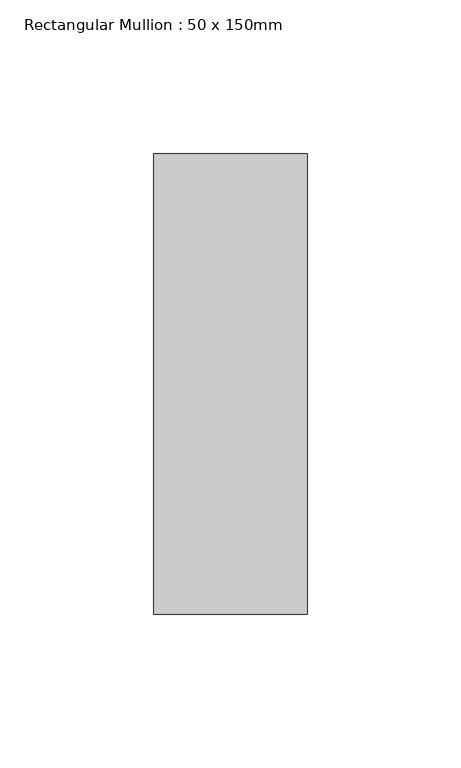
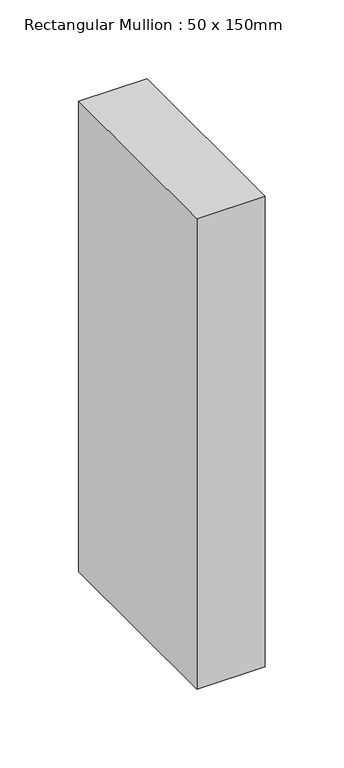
"""IFC4 building model written with IfcOpenShell, lengths in millimetres: member geometry, Rectangular Mullion : 50 x 150mm."""

import ifcopenshell
import ifcopenshell.guid

model = None  # the IFC model being written
_history = None  # IfcOwnerHistory: only IFC2X3 demands one
_inside = {}  # id of a spatial element -> (the spatial element, [elements in it])
_under = {}  # id of a project, library or spatial element -> (it, [spatial elements below it])
_declared = {}  # id of a project -> (the project, [libraries it declares])
_typed = {}  # id of a type object -> (the type object, [elements of that type])
_made_of = {}  # id of a material, layer set ... -> (it, [elements and type objects made of it])


def new_model(schema):
    """Start an empty IFC model of exactly this schema.

    Asked for "IFC4X3", IfcOpenShell would pick the latest addendum, in which some entities
    have other attributes; the version numbers below select the first issue.
    IFC2X3 requires an IfcOwnerHistory on every rooted entity: one is made here for all.
    """
    global model, _history
    if schema == "IFC4X3":
        model = ifcopenshell.file(schema_version=(4, 3, 0, 0))
    else:
        model = ifcopenshell.file(schema=schema)
    _inside.clear()
    _under.clear()
    _declared.clear()
    _typed.clear()
    _made_of.clear()
    _history = None
    if model.schema == "IFC2X3":
        org = make("IfcOrganization", Name="unknown")
        user = make(
            "IfcPersonAndOrganization",
            ThePerson=make("IfcPerson", FamilyName="unknown"),
            TheOrganization=org,
        )
        app = make(
            "IfcApplication",
            ApplicationDeveloper=org,
            Version="unknown",
            ApplicationFullName="unknown",
            ApplicationIdentifier="unknown",
        )
        _history = make(
            "IfcOwnerHistory",
            OwningUser=user,
            OwningApplication=app,
            ChangeAction="ADDED",
            CreationDate=0,
        )
    return model


def make(cls, **values):
    """One entity of the class cls with the attributes given. An attribute that is None is left unset."""
    return model.create_entity(
        cls, **{name: value for name, value in values.items() if value is not None}
    )


def rooted(cls, **values):
    """An entity with a GlobalId (a new one), such as an element, a storey or a relation."""
    return make(cls, GlobalId=ifcopenshell.guid.new(), OwnerHistory=_history, **values)


def si_unit(unit_type, name, prefix=None):
    """IfcSIUnit, for example si_unit("LENGTHUNIT", "METRE", prefix="MILLI")."""
    return make("IfcSIUnit", UnitType=unit_type, Prefix=prefix, Name=name)


def assignment(units):
    """IfcUnitAssignment: the units of a project."""
    return None if units is None else make("IfcUnitAssignment", Units=units)


def point(xyz):
    """IfcCartesianPoint."""
    return None if xyz is None else make("IfcCartesianPoint", Coordinates=xyz)


def direction(xyz):
    """IfcDirection."""
    return None if xyz is None else make("IfcDirection", DirectionRatios=xyz)


def frame(location, z_axis=None, x_axis=None):
    """IfcAxis2Placement3D, a coordinate frame: its origin and axes. An axis left out is left unset."""
    return make(
        "IfcAxis2Placement3D",
        Location=point(location),
        Axis=direction(z_axis),
        RefDirection=direction(x_axis),
    )


def origin():
    """The frame at (0, 0, 0) with its axes left unset."""
    return frame((0.0, 0.0, 0.0))


def place(relative_to, where):
    """IfcLocalPlacement: puts the frame where relative to a parent placement (None: the world)."""
    return make(
        "IfcLocalPlacement", PlacementRelTo=relative_to, RelativePlacement=where
    )


def context(
    kind, dimensions, precision=None, world=None, true_north=None, identifier=None
):
    """IfcGeometricRepresentationContext, for example the 3D "Model" context."""
    return make(
        "IfcGeometricRepresentationContext",
        ContextIdentifier=identifier,
        ContextType=kind,
        CoordinateSpaceDimension=dimensions,
        Precision=precision,
        WorldCoordinateSystem=world,
        TrueNorth=true_north,
    )


def project(units=None, contexts=None):
    """IfcProject with its units and contexts."""
    return rooted(
        "IfcProject",
        Name="project",
        RepresentationContexts=contexts,
        UnitsInContext=assignment(units),
    )


def spatial(cls, under=None, at=None, **own):
    """A site, building, storey or space (cls), placed at a placement, below another one or the project."""
    s = rooted(cls, ObjectPlacement=at, **own)
    if under is not None:
        _under.setdefault(under.id(), (under, []))[1].append(s)
    return s


def polyline(points):
    """IfcPolyline through the points."""
    return make("IfcPolyline", Points=[point(p) for p in points])


def outline(outer, holes=None, kind="AREA"):
    """IfcArbitraryClosedProfileDef: a profile drawn as a closed curve; with holes, ...WithVoids."""
    if holes is None:
        return make("IfcArbitraryClosedProfileDef", ProfileType=kind, OuterCurve=outer)
    return make(
        "IfcArbitraryProfileDefWithVoids",
        ProfileType=kind,
        OuterCurve=outer,
        InnerCurves=holes,
    )


def extrude(swept, where, along, depth):
    """IfcExtrudedAreaSolid: the profile swept, set in the frame where, extruded along a direction by depth."""
    return make(
        "IfcExtrudedAreaSolid",
        SweptArea=swept,
        Position=where,
        ExtrudedDirection=direction(along),
        Depth=depth,
    )


def shape(context_of_items, identifier, shape_type, items):
    """IfcShapeRepresentation: the items that make up one representation, for example the "Body"."""
    return make(
        "IfcShapeRepresentation",
        ContextOfItems=context_of_items,
        RepresentationIdentifier=identifier,
        RepresentationType=shape_type,
        Items=items,
    )


def source(mapping_origin, context_of_items, identifier, shape_type, items):
    """IfcRepresentationMap: a shape defined once, which mapped items show again and again."""
    return make(
        "IfcRepresentationMap",
        MappingOrigin=mapping_origin,
        MappedRepresentation=shape(context_of_items, identifier, shape_type, items),
    )


def transform(
    local_origin,
    x_axis=None,
    y_axis=None,
    z_axis=None,
    scale=None,
    scale2=None,
    scale3=None,
    uniform=True,
):
    """IfcCartesianTransformationOperator3D, or its non-uniform kind. x_axis, y_axis, z_axis: its Axis1, 2, 3."""
    if uniform:
        return make(
            "IfcCartesianTransformationOperator3D",
            Axis1=direction(x_axis),
            Axis2=direction(y_axis),
            LocalOrigin=point(local_origin),
            Scale=scale,
            Axis3=direction(z_axis),
        )
    return make(
        "IfcCartesianTransformationOperator3DnonUniform",
        Axis1=direction(x_axis),
        Axis2=direction(y_axis),
        LocalOrigin=point(local_origin),
        Scale=scale,
        Axis3=direction(z_axis),
        Scale2=scale2,
        Scale3=scale3,
    )


def mapped(mapping_source, mapping_target):
    """IfcMappedItem: shows the shape of a source again, moved by a transform."""
    return make(
        "IfcMappedItem", MappingSource=mapping_source, MappingTarget=mapping_target
    )


def made_of(thing, what):
    """Note that an element or type object is made of a material, layer set ...; save() writes the relation."""
    if what is not None:
        _made_of.setdefault(what.id(), (what, []))[1].append(thing)
    return thing


def element(
    cls,
    number,
    at=None,
    inside=None,
    cuts=None,
    type_object=None,
    material=None,
    context=None,
    identifier="Body",
    shape_type=None,
    held_by="IfcProductDefinitionShape",
    body=None,
    shapes=None,
    **own,
):
    """One element of the class cls, such as IfcWall. Its Tag is "e" and its number.

    at: its placement. inside: the storey or other place that contains it. cuts: it is an
    opening in that element (IfcRelVoidsElement). A single representation is given by context,
    identifier, shape_type and body (its items); several are given by shapes. held_by: the class
    of the entity that holds the representations. save() writes the other relations.
    """
    e = rooted(cls, Tag="e%d" % number, ObjectPlacement=at, **own)
    if body is not None:
        shapes = [shape(context, identifier, shape_type, body)]
    if shapes is not None:
        e.Representation = make(held_by, Representations=shapes)
    if inside is not None:
        _inside.setdefault(inside.id(), (inside, []))[1].append(e)
    if cuts is not None:
        rooted(
            "IfcRelVoidsElement", RelatingBuildingElement=cuts, RelatedOpeningElement=e
        )
    if type_object is not None:
        _typed.setdefault(type_object.id(), (type_object, []))[1].append(e)
    return made_of(e, material)


def aggregate(whole, parts):
    """IfcRelAggregates: a whole, such as a stair, and the parts it consists of."""
    return rooted("IfcRelAggregates", RelatingObject=whole, RelatedObjects=parts)


def save(model, path):
    """Write the relations noted so far, then the file.

    IfcRelAggregates (storeys below a building ...), IfcRelContainedInSpatialStructure (elements
    in a storey), IfcRelDefinesByType, IfcRelAssociatesMaterial and IfcRelDeclares: one each for
    every whole, place, type object, material and project.
    """
    for whole, parts in _under.values():
        aggregate(whole, parts)
    for where, things in _inside.values():
        rooted(
            "IfcRelContainedInSpatialStructure",
            RelatedElements=things,
            RelatingStructure=where,
        )
    for kind, things in _typed.values():
        rooted("IfcRelDefinesByType", RelatedObjects=things, RelatingType=kind)
    for what, things in _made_of.values():
        rooted("IfcRelAssociatesMaterial", RelatedObjects=things, RelatingMaterial=what)
    for by, libraries in _declared.values():
        rooted("IfcRelDeclares", RelatingContext=by, RelatedDefinitions=libraries)
    model.write(path)


def rectangular_mullion_50_x_150mm_fa5fa792(model_context):
    return source(origin(), model_context, "Body", "SweptSolid", [
        extrude(outline(polyline([(0.0, 75.0), (0.0, -75.0), (-50.0, -75.0), (-50.0, 75.0), (0.0, 75.0)])), frame((0.0, 0.0, -364.1219486), z_axis=(0.0, 0.0, 1.0), x_axis=(1.0, 0.0, 0.0)), (0.0, 0.0, 1.0), 364.1219486),
    ])


if __name__ == "__main__":
    model = new_model("IFC4")
    model_context = context("Model", 3, world=origin())
    ifc_project = project(units=[si_unit("LENGTHUNIT", "METRE", prefix="MILLI")], contexts=[model_context])
    site = spatial("IfcSite", under=ifc_project)
    building = spatial("IfcBuilding", under=site)
    placement = place(None, origin())
    rectangular_mullion_50_x_150mm_shape = rectangular_mullion_50_x_150mm_fa5fa792(model_context)
    element("IfcMember", 1, ObjectType="Rectangular Mullion : 50 x 150mm", at=placement, inside=building, context=model_context, shape_type="MappedRepresentation", body=[
        mapped(rectangular_mullion_50_x_150mm_shape, transform((0.0, 0.0, 0.0), x_axis=(1.0, 0.0, 0.0), y_axis=(0.0, 1.0, 0.0), z_axis=(0.0, 0.0, 1.0))),
    ])
    save(model, "model.ifc")
